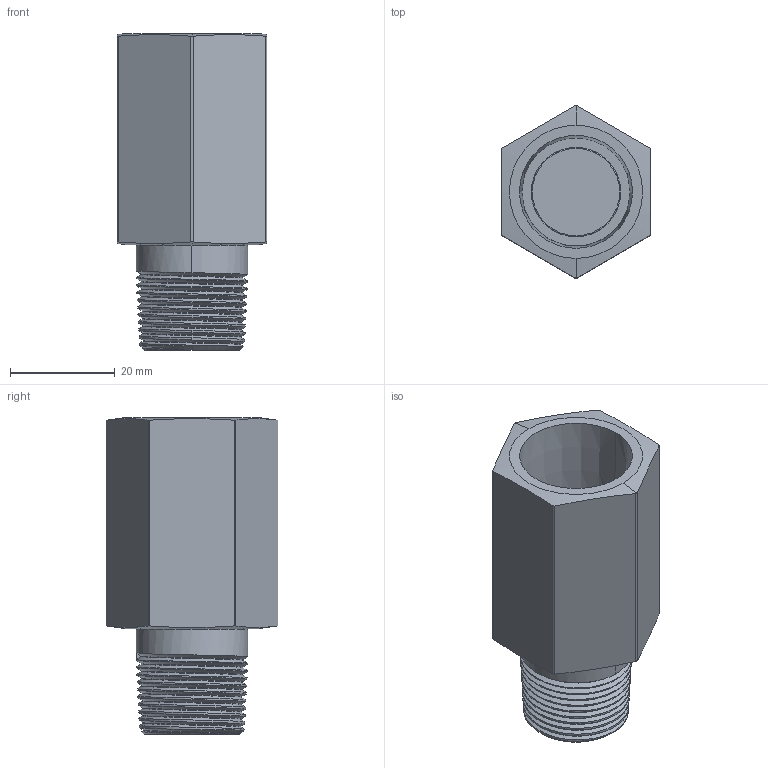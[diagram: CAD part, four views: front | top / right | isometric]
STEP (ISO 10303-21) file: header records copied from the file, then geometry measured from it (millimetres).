
FILE_DESCRIPTION (( 'STEP AP203' ), '1' );
FILE_NAME ('SCMF-4.STEP', '2020-04-14T20:05:49', ( '' ), ( '' ), 'SwSTEP 2.0', 'SolidWorks 2017', '' );
FILE_SCHEMA (( 'CONFIG_CONTROL_DESIGN' ));
Length unit declared in the file: inch
Products named in the file (2): SCMF-4
Bounding box: 28.57 x 32.77 x 60.45 mm (x, y, z)
Volume: 17543.3 mm3; surface area: 12527.1 mm2
Topology: 5 solids, 5 shells, 285 faces, 778 edges, 512 vertices
Faces by surface type: cylinder 173, cone 53, plane 37, torus 12, bspline 10
Entity records: 30740 total; most frequent: CARTESIAN_POINT 24276, ORIENTED_EDGE 1552, DIRECTION 1103, EDGE_CURVE 776, VERTEX_POINT 508, AXIS2_PLACEMENT_3D 420, EDGE_LOOP 300, ADVANCED_FACE 285
